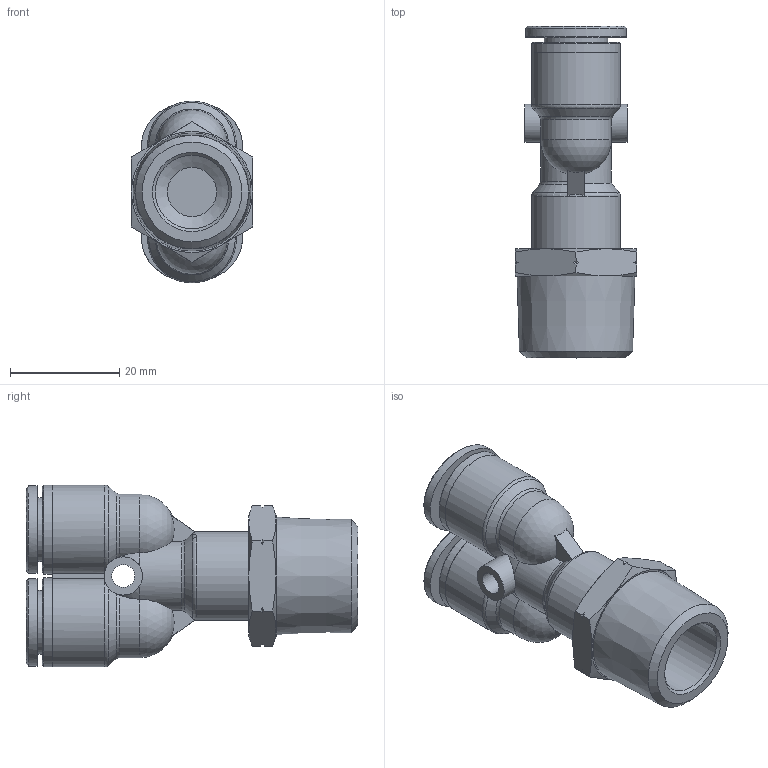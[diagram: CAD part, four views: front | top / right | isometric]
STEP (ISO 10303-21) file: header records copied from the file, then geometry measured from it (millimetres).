
FILE_DESCRIPTION((''),'2;1');
FILE_NAME('C:\Users\user0117\Desktop\김진일\홈페이지\3_8\Internet\G-FITTING INCH (STEP)\GPWT 3_8-N04U.stp','2019-12-16T09:57:52',('user0117'),(''),'Autodesk Inventor 2013','Autodesk Inventor 2013','');
FILE_SCHEMA(('AUTOMOTIVE_DESIGN { 1 0 10303 214 1 1 1 1 }'));
Length unit declared in the file: millimetre
Products named in the file (6): GPWT 3_8-N04U; GPWT BODY 3-8 N04(BRASS); GPY BODY 3-8(PLASTIC); G-COLLAR 3-8L; COLLAR G3-8L; SLEEVE G3-8
Assembly tree (6 placements, depth 3):
  GPWT 3_8-N04U
    GPWT BODY 3-8 N04(BRASS)
    GPY BODY 3-8(PLASTIC)
    G-COLLAR 3-8L  x2
      COLLAR G3-8L
      SLEEVE G3-8
Bounding box: 22.23 x 60.8 x 33.3 mm (x, y, z)
Volume: 14168 mm3; surface area: 10447.8 mm2
Topology: 6 solids, 6 shells, 723 faces, 2018 edges, 1340 vertices
Faces by surface type: plane 567, bspline 74, cone 38, cylinder 32, torus 6, sphere 6
Full cylindrical faces by diameter (mm): 4.2 x1, 7 x2, 9 x1, 9.75 x7, 11.7 x2, 13.5 x2, 16.3 x3
Entity records: 13330 total; most frequent: CARTESIAN_POINT 3370, ORIENTED_EDGE 2172, DIRECTION 1760, EDGE_CURVE 1086, VECTOR 824, LINE 824, VERTEX_POINT 732, AXIS2_PLACEMENT_3D 468
